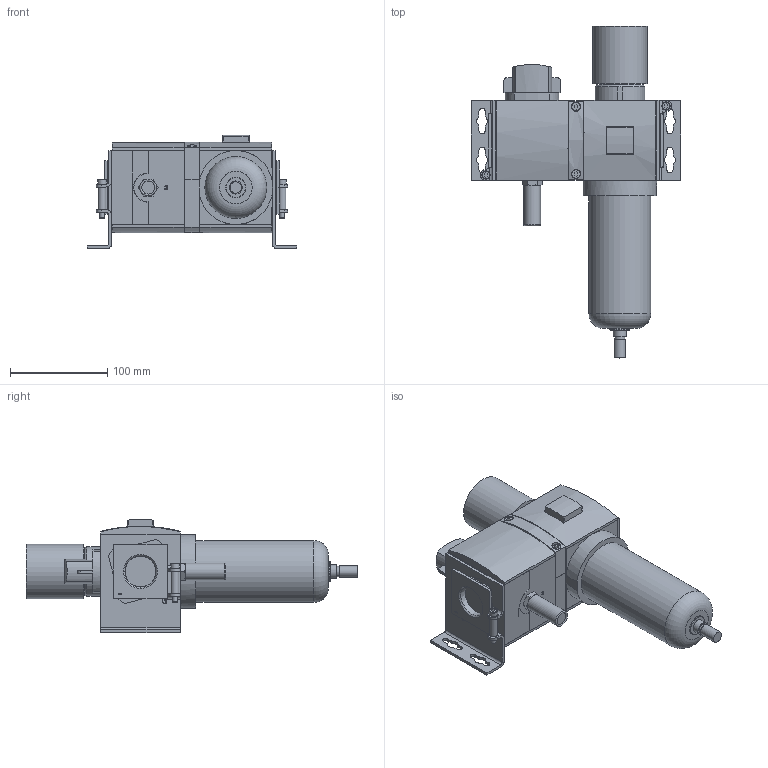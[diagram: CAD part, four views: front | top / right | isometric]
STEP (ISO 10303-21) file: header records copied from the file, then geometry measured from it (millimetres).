
FILE_DESCRIPTION( ( 'STEP AP214' ), '1' );
FILE_NAME( 'p:/temp/worker_155/temp/exporttempdir_888_644_yoWHj/format_0/26562020-210248_gen_25325.stp', '2020-02-26T20:56:50', ( '' ), ( '' ), ' ', 'PARTsolutions', ' ' );
FILE_SCHEMA( ( 'AUTOMOTIVE_DESIGN { 1 0 10303 214 1 1 1 1 }' ) );
Length unit declared in the file: millimetre
Products named in the file (16): 26562020-210248_gen_25325; _440562-004-006-F(L); _439489-001-0; _437742 KNOB-100_653; _653-M3MN; _440561-004-006-F(L); _G653ASLA0A00A00_LS; _439488-012-F(L); _653-438047-009; _439489-002-H; _503493-001; _510722-001-STANDARD_653; _507439-006-P; _653-501862-002; _8653ASLB0L00A00_LS; _8653ASLB0L00A00_RS
Assembly tree (17 placements, depth 2):
  26562020-210248_gen_25325
    _440562-004-006-F(L)
    _439489-001-0  x3
    _437742 KNOB-100_653
    _653-M3MN
    _440561-004-006-F(L)
    _G653ASLA0A00A00_LS
    _439488-012-F(L)
    _653-438047-009
    _439489-002-H
    _503493-001
    _510722-001-STANDARD_653
    _507439-006-P
    _653-501862-002
    _8653ASLB0L00A00_LS
    _8653ASLB0L00A00_RS
Bounding box: 214.98 x 340.9 x 116.41 mm (x, y, z)
Volume: 1980439.7 mm3; surface area: 302453.6 mm2
Topology: 17 solids, 17 shells, 1028 faces, 2529 edges, 1621 vertices
Faces by surface type: plane 650, cylinder 282, cone 69, torus 23, sphere 4
Full cylindrical faces by diameter (mm): 2.8 x2, 5 x8, 5.85 x4, 6.3 x4, 8 x2, 8.5 x4, 10 x4, 10.4 x1, 10.5 x1, 10.8 x4, 11.671 x1, 12 x4, 12.309 x1, 13.5 x1, 15.1 x1, 16.105 x1, 17.3 x1, 20 x1, 21.6 x1, 29.5 x1, 33.5 x1, 43 x1, 51 x1, 55.99 x1, 63.5 x1
Entity records: 37924 total; most frequent: CARTESIAN_POINT 5524, DIRECTION 5111, ORIENTED_EDGE 4720, EDGE_CURVE 2360, AXIS2_PLACEMENT_3D 1777, VERTEX_POINT 1587, LINE 1557, VECTOR 1557
